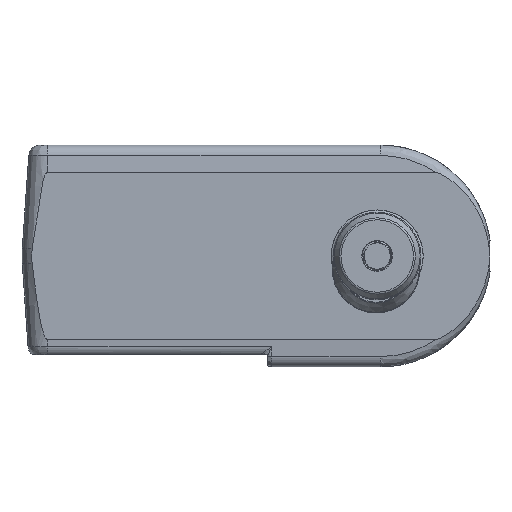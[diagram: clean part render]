
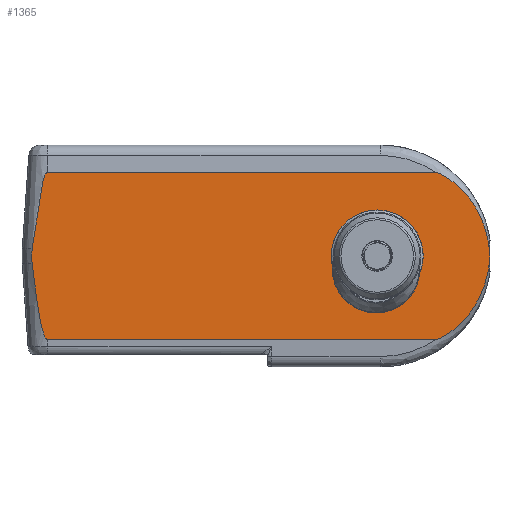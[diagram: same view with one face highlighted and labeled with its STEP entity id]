
A CAD part, front view. The second image highlights one B-rep face of the part: STEP entity #1365.
In plain terms, the highlighted planar face has unit normal (0, -1, 0).
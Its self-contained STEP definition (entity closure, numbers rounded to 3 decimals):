
#339=ELLIPSE('',#14171,45.651,45.54);
#351=ELLIPSE('',#14224,45.651,45.54);
#1365=ADVANCED_FACE('',(#3441,#3442),#2095,.T.);
#2095=PLANE('',#14225);
#2486=B_SPLINE_CURVE_WITH_KNOTS('',3,(#18612,#18613,#18614,#18615,#18616,
#18617,#18618,#18619,#18620,#18621,#18622,#18623,#18624,#18625),
 .UNSPECIFIED.,.F.,.F.,(4,2,2,2,2,2,4),(0.,0.031,0.063,
0.125,0.25,0.5,1.),.UNSPECIFIED.);
#2497=B_SPLINE_CURVE_WITH_KNOTS('',3,(#18730,#18731,#18732,#18733,#18734,
#18735,#18736,#18737,#18738,#18739,#18740,#18741,#18742,#18743,#18744,#18745),
 .UNSPECIFIED.,.F.,.F.,(4,2,2,2,2,2,2,4),(0.,0.031,0.062,
0.125,0.25,0.5,0.75,1.),.UNSPECIFIED.);
#2524=B_SPLINE_CURVE_WITH_KNOTS('',3,(#19356,#19357,#19358,#19359,#19360,
#19361,#19362,#19363,#19364,#19365,#19366,#19367,#19368,#19369),
 .UNSPECIFIED.,.F.,.F.,(4,2,2,2,2,2,4),(0.,0.5,0.75,0.875,0.938,
0.969,1.),.UNSPECIFIED.);
#2525=B_SPLINE_CURVE_WITH_KNOTS('',3,(#19372,#19373,#19374,#19375),
 .UNSPECIFIED.,.F.,.F.,(4,4),(0.,1.),.UNSPECIFIED.);
#2526=B_SPLINE_CURVE_WITH_KNOTS('',3,(#19376,#19377,#19378,#19379,#19380,
#19381,#19382,#19383,#19384,#19385,#19386,#19387,#19388,#19389),
 .UNSPECIFIED.,.F.,.F.,(4,2,2,2,2,2,4),(0.,0.031,0.062,
0.125,0.25,0.5,1.),.UNSPECIFIED.);
#3441=FACE_BOUND('',#3757,.T.);
#3442=FACE_BOUND('',#3758,.T.);
#3757=EDGE_LOOP('',(#7063));
#3758=EDGE_LOOP('',(#7064,#7065,#7066,#7067,#7068,#7069,#7070,#7071,#7072));
#4680=LINE('',#18557,#5568);
#4720=LINE('',#19393,#5608);
#5568=VECTOR('',#15115,1.);
#5608=VECTOR('',#15305,1.);
#7063=ORIENTED_EDGE('',*,*,#12155,.T.);
#7064=ORIENTED_EDGE('',*,*,#12156,.F.);
#7065=ORIENTED_EDGE('',*,*,#12157,.T.);
#7066=ORIENTED_EDGE('',*,*,#12058,.F.);
#7067=ORIENTED_EDGE('',*,*,#12037,.F.);
#7068=ORIENTED_EDGE('',*,*,#12078,.T.);
#7069=ORIENTED_EDGE('',*,*,#12077,.T.);
#7070=ORIENTED_EDGE('',*,*,#12158,.F.);
#7071=ORIENTED_EDGE('',*,*,#12159,.F.);
#7072=ORIENTED_EDGE('',*,*,#12160,.F.);
#10701=VERTEX_POINT('',#18556);
#10702=VERTEX_POINT('',#18558);
#10717=VERTEX_POINT('',#18626);
#10726=VERTEX_POINT('',#18729);
#10727=VERTEX_POINT('',#18746);
#10765=VERTEX_POINT('',#19355);
#10766=VERTEX_POINT('',#19370);
#10767=VERTEX_POINT('',#19371);
#10768=VERTEX_POINT('',#19390);
#10769=VERTEX_POINT('',#19392);
#12037=EDGE_CURVE('',#10701,#10702,#4680,.T.);
#12058=EDGE_CURVE('',#10702,#10717,#2486,.T.);
#12077=EDGE_CURVE('',#10727,#10726,#2497,.T.);
#12078=EDGE_CURVE('',#10701,#10727,#339,.T.);
#12155=EDGE_CURVE('',#10765,#10765,#13881,.T.);
#12156=EDGE_CURVE('',#10766,#10767,#2524,.T.);
#12157=EDGE_CURVE('',#10766,#10717,#2525,.T.);
#12158=EDGE_CURVE('',#10768,#10726,#2526,.T.);
#12159=EDGE_CURVE('',#10769,#10768,#351,.T.);
#12160=EDGE_CURVE('',#10767,#10769,#4720,.T.);
#13881=CIRCLE('',#14223,21.);
#14171=AXIS2_PLACEMENT_3D('',#18747,#15175,#15176);
#14223=AXIS2_PLACEMENT_3D('',#19354,#15301,#15302);
#14224=AXIS2_PLACEMENT_3D('',#19391,#15303,#15304);
#14225=AXIS2_PLACEMENT_3D('',#19394,#15306,#15307);
#15115=DIRECTION('',(-1.,0.,0.));
#15175=DIRECTION('',(0.,-0.998,-0.07));
#15176=DIRECTION('',(0.,-0.07,0.998));
#15301=DIRECTION('',(0.,1.,0.));
#15302=DIRECTION('',(0.,0.,1.));
#15303=DIRECTION('',(0.,0.998,-0.07));
#15304=DIRECTION('',(0.,-0.07,-0.998));
#15305=DIRECTION('',(1.,0.,0.));
#15306=DIRECTION('',(0.,-1.,0.));
#15307=DIRECTION('',(0.,0.,-1.));
#18556=CARTESIAN_POINT('',(187.252,-75.,-38.197));
#18557=CARTESIAN_POINT('',(-1.771,-75.,-38.197));
#18558=CARTESIAN_POINT('',(10.12,-75.,-38.197));
#18612=CARTESIAN_POINT('',(10.12,-75.,-38.197));
#18613=CARTESIAN_POINT('',(9.739,-75.,-38.197));
#18614=CARTESIAN_POINT('',(9.44,-75.,-37.875));
#18615=CARTESIAN_POINT('',(9.004,-75.,-37.271));
#18616=CARTESIAN_POINT('',(8.834,-75.,-36.939));
#18617=CARTESIAN_POINT('',(8.371,-75.,-35.916));
#18618=CARTESIAN_POINT('',(8.134,-75.,-35.205));
#18619=CARTESIAN_POINT('',(7.487,-75.,-33.056));
#18620=CARTESIAN_POINT('',(7.152,-75.,-31.596));
#18621=CARTESIAN_POINT('',(6.234,-75.,-27.203));
#18622=CARTESIAN_POINT('',(5.75,-75.,-24.249));
#18623=CARTESIAN_POINT('',(4.41,-75.,-15.374));
#18624=CARTESIAN_POINT('',(3.684,-75.,-9.433));
#18625=CARTESIAN_POINT('',(3.003,-75.,-3.488));
#18626=CARTESIAN_POINT('',(3.003,-75.,-3.488));
#18729=CARTESIAN_POINT('',(211.917,-75.,0.));
#18730=CARTESIAN_POINT('',(187.252,-75.,-38.197));
#18731=CARTESIAN_POINT('',(187.764,-75.,-38.195));
#18732=CARTESIAN_POINT('',(188.243,-75.,-37.997));
#18733=CARTESIAN_POINT('',(189.184,-75.,-37.628));
#18734=CARTESIAN_POINT('',(189.642,-75.,-37.415));
#18735=CARTESIAN_POINT('',(190.998,-75.,-36.731));
#18736=CARTESIAN_POINT('',(191.869,-75.,-36.216));
#18737=CARTESIAN_POINT('',(194.407,-75.,-34.561));
#18738=CARTESIAN_POINT('',(195.995,-75.,-33.307));
#18739=CARTESIAN_POINT('',(200.41,-75.,-29.277));
#18740=CARTESIAN_POINT('',(202.955,-75.,-26.177));
#18741=CARTESIAN_POINT('',(207.193,-75.,-19.336));
#18742=CARTESIAN_POINT('',(208.815,-75.,-15.702));
#18743=CARTESIAN_POINT('',(211.118,-75.,-8.03));
#18744=CARTESIAN_POINT('',(211.778,-75.,-4.028));
#18745=CARTESIAN_POINT('',(211.917,-75.,0.));
#18746=CARTESIAN_POINT('',(187.252,-75.,-38.197));
#18747=CARTESIAN_POINT('',(161.92,-77.646,-0.353));
#19354=CARTESIAN_POINT('',(160.517,-75.,0.));
#19355=CARTESIAN_POINT('',(160.517,-75.,21.));
#19356=CARTESIAN_POINT('',(3.003,-75.,3.488));
#19357=CARTESIAN_POINT('',(3.684,-75.,9.431));
#19358=CARTESIAN_POINT('',(4.409,-75.,15.368));
#19359=CARTESIAN_POINT('',(5.749,-75.,24.241));
#19360=CARTESIAN_POINT('',(6.233,-75.,27.195));
#19361=CARTESIAN_POINT('',(7.149,-75.,31.582));
#19362=CARTESIAN_POINT('',(7.482,-75.,33.039));
#19363=CARTESIAN_POINT('',(8.129,-75.,35.19));
#19364=CARTESIAN_POINT('',(8.367,-75.,35.906));
#19365=CARTESIAN_POINT('',(8.83,-75.,36.931));
#19366=CARTESIAN_POINT('',(9.003,-75.,37.27));
#19367=CARTESIAN_POINT('',(9.442,-75.,37.878));
#19368=CARTESIAN_POINT('',(9.743,-75.,38.197));
#19369=CARTESIAN_POINT('',(10.12,-75.,38.197));
#19370=CARTESIAN_POINT('',(3.003,-75.,3.488));
#19371=CARTESIAN_POINT('',(10.12,-75.,38.197));
#19372=CARTESIAN_POINT('',(3.003,-75.,3.488));
#19373=CARTESIAN_POINT('',(2.737,-75.,1.163));
#19374=CARTESIAN_POINT('',(2.737,-75.,-1.163));
#19375=CARTESIAN_POINT('',(3.003,-75.,-3.488));
#19376=CARTESIAN_POINT('',(187.252,-75.,38.197));
#19377=CARTESIAN_POINT('',(187.772,-75.,38.195));
#19378=CARTESIAN_POINT('',(188.241,-75.,37.998));
#19379=CARTESIAN_POINT('',(189.186,-75.,37.627));
#19380=CARTESIAN_POINT('',(189.645,-75.,37.414));
#19381=CARTESIAN_POINT('',(190.993,-75.,36.734));
#19382=CARTESIAN_POINT('',(191.858,-75.,36.222));
#19383=CARTESIAN_POINT('',(194.387,-75.,34.576));
#19384=CARTESIAN_POINT('',(195.98,-75.,33.32));
#19385=CARTESIAN_POINT('',(200.408,-75.,29.28));
#19386=CARTESIAN_POINT('',(202.975,-75.,26.148));
#19387=CARTESIAN_POINT('',(209.3,-75.,15.93));
#19388=CARTESIAN_POINT('',(211.64,-75.,8.047));
#19389=CARTESIAN_POINT('',(211.917,-75.,0.));
#19390=CARTESIAN_POINT('',(187.252,-75.,38.197));
#19391=CARTESIAN_POINT('',(161.92,-77.646,0.353));
#19392=CARTESIAN_POINT('',(187.252,-75.,38.197));
#19393=CARTESIAN_POINT('',(-1.771,-75.,38.197));
#19394=CARTESIAN_POINT('',(212.,-75.,60.));
